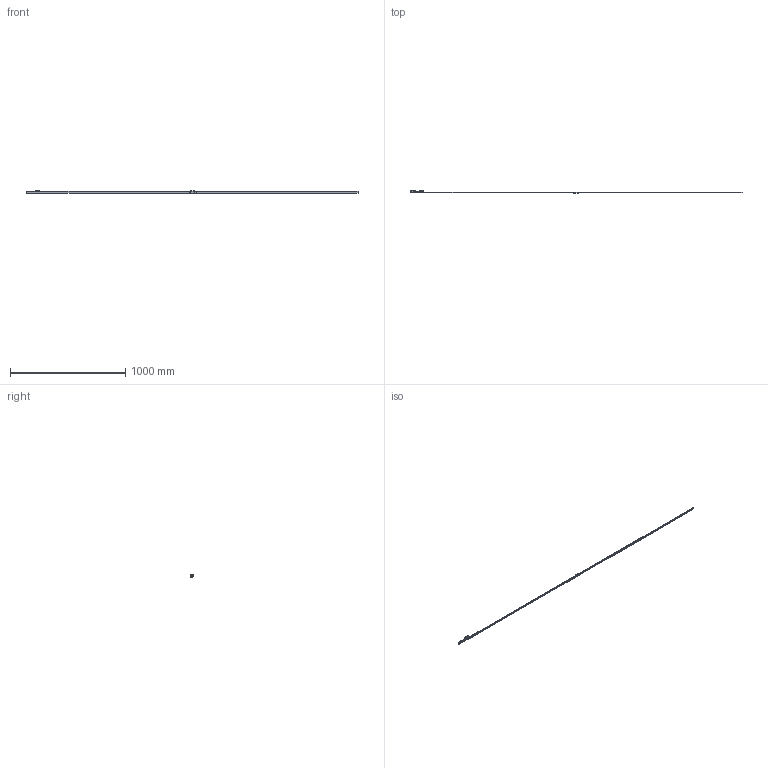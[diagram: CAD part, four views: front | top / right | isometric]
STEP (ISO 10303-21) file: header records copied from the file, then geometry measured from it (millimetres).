
FILE_DESCRIPTION(('Creo Elements/Direct Modeling STEP Export'),'2;1');
FILE_NAME('EXG_EXGA-2840.stp','2017-01-16T 9:46:46',(''),(''),'Creo Elements/Direct Modeling STEP processor for AP214 (Solid Model)','Creo Elements/Direct Modeling 18.1H 24-Oct-2015 (C) Parametric Technology GmbH','');
FILE_SCHEMA(('AUTOMOTIVE_DESIGN { 1 0 10303 214 1 1 1 1 }'));
Length unit declared in the file: millimetre
Products named in the file (4): CABEZA_REGLA_EXPOSED; Regla_64
Assembly tree (2 placements, depth 2):
  CABEZA_REGLA_EXPOSED
    CABEZA_REGLA_EXPOSED
  Regla_64
    Regla_64
Bounding box: 2878 x 19.51 x 29.31 mm (x, y, z)
Volume: 109499.9 mm3; surface area: 185493.2 mm2
Topology: 2 solids, 4 shells, 634 faces, 1725 edges, 1110 vertices
Faces by surface type: plane 329, cylinder 201, cone 88, torus 16
Entity records: 21154 total; most frequent: ORIENTED_EDGE 3426, CARTESIAN_POINT 3425, DIRECTION 2843, EDGE_CURVE 1713, VERTEX_POINT 1110, AXIS2_PLACEMENT_3D 957, VECTOR 929, LINE 929
